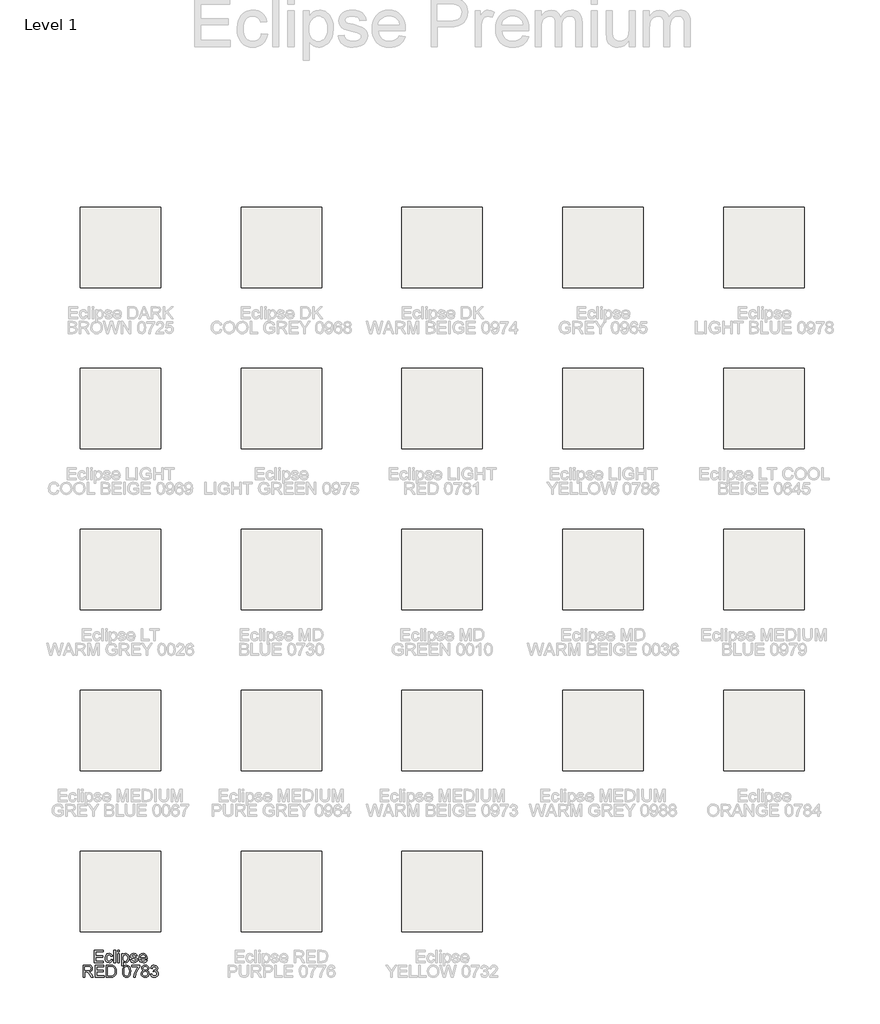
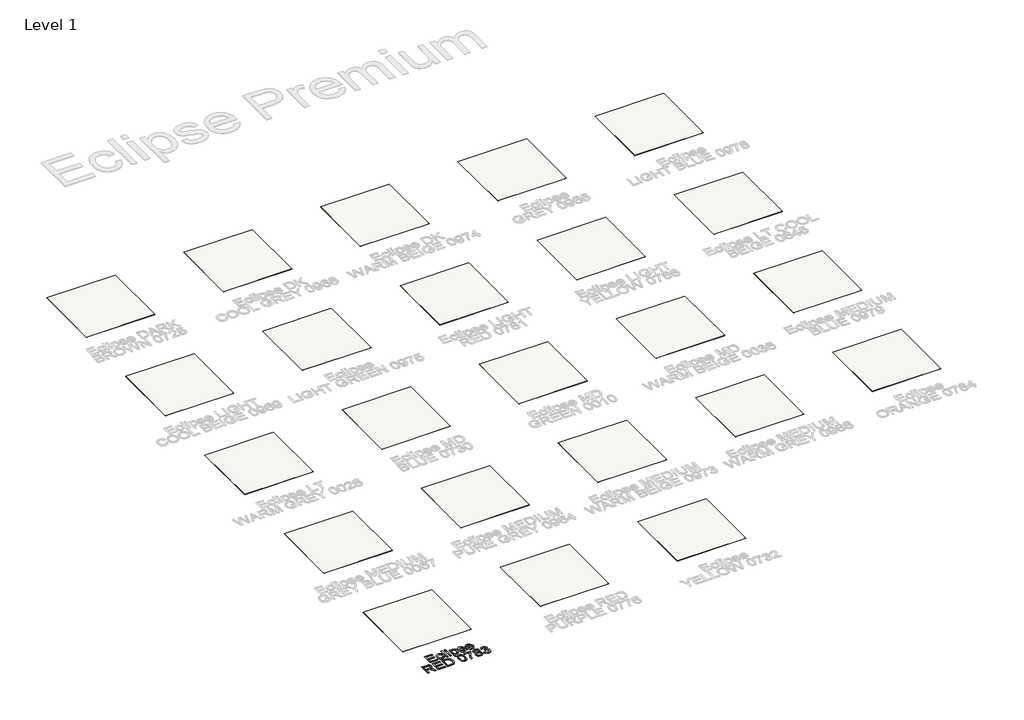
# One storey, part 1 of 13: 23 coverings, 1 proxy.
"""IFC4 building model written with IfcOpenShell, lengths in millimetres."""

from ifc_helpers import new_model, si_unit, frame, origin, origin_with_axes, place, context, project, spatial, polyline, outline, extrude, element, save

model = new_model("IFC4")

# Units and contexts
model_context = context("Model", 3, world=origin())
ifc_project = project(units=[si_unit("LENGTHUNIT", "METRE", prefix="MILLI")], contexts=[model_context])

# Site, building, storey
site = spatial("IfcSite", under=ifc_project)
building = spatial("IfcBuilding", under=site)
storey = spatial("IfcBuildingStorey", under=building, Name="Level 1", Elevation=0.0)

# Proxy
placement = place(None, origin())
element("IfcBuildingElementProxy", 1, Name="150mm Arial", ObjectType="150mm Arial", at=placement, inside=storey, context=model_context, shape_type="SweptSolid", body=[
    extrude(outline(polyline([(-2255.3225543, -7362.9455422), (-2255.3225543, -7212.261077), (-2147.0180949, -7212.261077), (-2147.0180949, -7231.0966352), (-2236.4869961, -7231.0966352), (-2236.4869961, -7275.8310858), (-2151.7269845, -7275.8310858), (-2151.7269845, -7294.6666439), (-2236.4869961, -7294.6666439), (-2236.4869961, -7344.1099841), (-2144.6636501, -7344.1099841), (-2144.6636501, -7362.9455422), (-2255.3225543, -7362.9455422)])), origin_with_axes(), (0.0, 0.0, 1.0), 5.0),
    extrude(outline(polyline([(-2048.1314146, -7322.9199812), (-2029.2958565, -7325.2744259), (-2034.5473719, -7342.0268523), (-2044.4158065, -7354.6865914), (-2057.972258, -7362.6466381), (-2074.2878245, -7365.299987), (-2094.3235976, -7361.5981744), (-2109.9907721, -7350.4927367), (-2120.1029284, -7332.4711175), (-2123.4736472, -7308.0207603), (-2122.0343089, -7291.2591369), (-2117.716294, -7276.7323967), (-2110.4506246, -7265.0015595), (-2100.1683228, -7256.6276456), (-2087.8672686, -7251.6060564), (-2074.5453419, -7249.9321933), (-2058.6298471, -7252.2314558), (-2045.9057285, -7259.1292432), (-2036.7776565, -7270.2576735), (-2031.6503012, -7285.2488648), (-2050.4858594, -7287.6033096), (-2059.2230568, -7273.4950351), (-2074.3981891, -7268.7677515), (-2086.5704846, -7271.0946051), (-2096.2319855, -7278.0751659), (-2102.5365632, -7290.0865131), (-2104.6380891, -7307.5057256), (-2102.5825484, -7325.1594628), (-2096.4159265, -7337.2121967), (-2086.9291695, -7344.1513708), (-2074.9132239, -7346.4644288), (-2065.1597525, -7345.020492), (-2057.1629176, -7340.6886815), (-2051.3457835, -7333.3586328), (-2048.1314146, -7322.9199812)])), origin_with_axes(), (0.0, 0.0, 1.0), 5.0),
    extrude(outline(polyline([(-2012.8147431, -7362.9455422), (-2012.8147431, -7212.261077), (-1993.9791849, -7212.261077), (-1993.9791849, -7362.9455422), (-2012.8147431, -7362.9455422)])), origin_with_axes(), (0.0, 0.0, 1.0), 5.0),
    extrude(outline(polyline([(-1965.7258477, -7231.0966352), (-1965.7258477, -7212.261077), (-1946.8902895, -7212.261077), (-1946.8902895, -7231.0966352), (-1965.7258477, -7231.0966352)])), origin_with_axes(), (0.0, 0.0, 1.0), 5.0),
    extrude(outline(polyline([(-1965.7258477, -7362.9455422), (-1965.7258477, -7252.2866381), (-1946.8902895, -7252.2866381), (-1946.8902895, -7362.9455422), (-1965.7258477, -7362.9455422)])), origin_with_axes(), (0.0, 0.0, 1.0), 5.0),
    extrude(outline(polyline([(-1918.6369523, -7405.3255481), (-1918.6369523, -7252.2866381), (-1899.8013942, -7252.2866381), (-1899.8013942, -7270.7543142), (-1886.7783715, -7255.1377235), (-1869.1936122, -7249.9321933), (-1856.4556981, -7251.7532092), (-1845.3180707, -7257.2162568), (-1836.2497795, -7265.9902424), (-1829.7198741, -7277.7440721), (-1824.4591615, -7306.7699616), (-1825.9444851, -7322.8785944), (-1830.4004558, -7337.2857731), (-1837.6845193, -7349.260332), (-1847.6541213, -7358.0711058), (-1859.2653968, -7363.4927667), (-1871.4744805, -7365.299987), (-1887.8636234, -7360.4623388), (-1899.8013942, -7348.2302624), (-1899.8013942, -7405.3255481), (-1918.6369523, -7405.3255481)]), holes=[polyline([(-1899.8013942, -7308.4990069), (-1897.7642476, -7325.3847905), (-1891.652808, -7337.1938026), (-1882.6351006, -7344.1467723), (-1871.8791507, -7346.4644288), (-1860.9484569, -7344.0639988), (-1851.7008233, -7336.8627088), (-1845.3962456, -7324.6214354), (-1843.2947197, -7307.1010554), (-1845.3456618, -7290.3072423), (-1851.4984882, -7278.3326833), (-1860.5024, -7271.1589844), (-1871.1065985, -7268.7677515), (-1881.7521838, -7271.3107358), (-1891.100985, -7278.9396886), (-1897.6262919, -7291.4154868), (-1899.8013942, -7308.4990069)])]), origin_with_axes(), (0.0, 0.0, 1.0), 5.0),
    extrude(outline(polyline([(-1810.3324929, -7329.9833155), (-1791.4969348, -7327.6288707), (-1788.5262877, -7335.6854864), (-1782.7781315, -7341.6083865), (-1762.8021392, -7346.4644288), (-1743.598699, -7342.0130567), (-1737.3447051, -7331.565208), (-1738.9174006, -7326.764348), (-1743.6354872, -7323.1039222), (-1763.0228684, -7317.732845), (-1791.3865702, -7308.517401), (-1803.7657993, -7297.7568527), (-1807.9780482, -7282.5633263), (-1804.5935338, -7268.5286282), (-1795.3596957, -7257.804868), (-1783.3851368, -7252.2314558), (-1767.1799349, -7249.9321933), (-1744.2608866, -7253.6294074), (-1729.6927596, -7263.6357976), (-1723.2180365, -7280.5399753), (-1742.0535946, -7282.8944201), (-1749.135323, -7272.5017537), (-1765.7084069, -7268.7677515), (-1783.7346247, -7272.3362068), (-1789.14249, -7280.6503399), (-1786.8984098, -7286.1317816), (-1779.8718637, -7290.2888482), (-1763.6482677, -7294.2987619), (-1736.0019358, -7303.164718), (-1723.1628542, -7313.2078965), (-1718.5091469, -7329.5786453), (-1723.9721946, -7347.604863), (-1739.7359381, -7360.683068), (-1763.0596566, -7365.299987), (-1782.0515646, -7363.0743009), (-1795.9115187, -7356.3972427), (-1805.1637509, -7345.3423888), (-1810.3324929, -7329.9833155)])), origin_with_axes(), (0.0, 0.0, 1.0), 5.0),
    extrude(outline(polyline([(-1619.8431958, -7329.9833155), (-1601.3755197, -7332.3377602), (-1608.0295853, -7346.2528967), (-1618.6475793, -7356.6547601), (-1632.9903786, -7363.1386803), (-1650.8188598, -7365.299987), (-1672.9193707, -7361.5705833), (-1689.9247159, -7350.3823721), (-1700.7680377, -7332.4619204), (-1704.3824783, -7308.5357951), (-1700.7312495, -7283.804928), (-1689.7775631, -7265.3096607), (-1673.0021441, -7253.7765602), (-1651.8857176, -7249.9321933), (-1631.4268802, -7253.7673631), (-1615.079124, -7265.2728725), (-1604.3599624, -7283.7313516), (-1600.7869085, -7308.4254305), (-1600.8972731, -7313.5022021), (-1685.5469202, -7313.5022021), (-1682.286566, -7327.6012795), (-1674.7127954, -7337.9663548), (-1663.7821016, -7344.3399103), (-1650.4509778, -7346.4644288), (-1631.9833017, -7342.5280915), (-1619.8431958, -7329.9833155)]), holes=[polyline([(-1685.5469202, -7294.6666439), (-1619.6224666, -7294.6666439), (-1622.1700494, -7284.715436), (-1627.1640475, -7277.5969193), (-1638.1453251, -7270.9750434), (-1651.959294, -7268.7677515), (-1664.6558214, -7270.5289865), (-1675.1542538, -7275.8126917), (-1682.4521129, -7284.0486498), (-1685.5469202, -7294.6666439)])]), origin_with_axes(), (0.0, 0.0, 1.0), 5.0),
    extrude(outline(polyline([(-2397.7664628, -7545.907769), (-2397.7664628, -7395.2233038), (-2332.8352907, -7395.2233038), (-2302.6873612, -7399.2883998), (-2293.4075378, -7404.9169943), (-2286.2062478, -7413.6725858), (-2281.5847302, -7424.5297032), (-2280.0442244, -7436.4628754), (-2282.5964057, -7451.3069139), (-2290.2529497, -7463.6125667), (-2303.2437827, -7472.6348726), (-2321.7988308, -7477.6288707), (-2311.0934648, -7485.6854864), (-2295.826362, -7505.0728675), (-2270.7000217, -7545.907769), (-2292.5890004, -7545.907769), (-2312.1971108, -7514.6745876), (-2326.3605676, -7493.9996195), (-2336.3117755, -7484.2323525), (-2345.2697021, -7480.6455031), (-2356.1957974, -7479.9833155), (-2378.9309047, -7479.9833155), (-2378.9309047, -7545.907769), (-2397.7664628, -7545.907769)]), holes=[polyline([(-2378.9309047, -7461.1477573), (-2336.771628, -7461.1477573), (-2315.2689254, -7458.4806128), (-2303.0552432, -7449.9457506), (-2298.8797825, -7437.1618512), (-2300.8709438, -7427.9739984), (-2306.8444277, -7420.5703732), (-2317.122131, -7415.6867398), (-2332.0259503, -7414.0588619), (-2378.9309047, -7414.0588619), (-2378.9309047, -7461.1477573)])]), origin_with_axes(), (0.0, 0.0, 1.0), 5.0),
    extrude(outline(polyline([(-2247.0819976, -7545.907769), (-2247.0819976, -7395.2233038), (-2138.7775382, -7395.2233038), (-2138.7775382, -7414.0588619), (-2228.2464395, -7414.0588619), (-2228.2464395, -7458.7933125), (-2143.4864278, -7458.7933125), (-2143.4864278, -7477.6288707), (-2228.2464395, -7477.6288707), (-2228.2464395, -7527.0722108), (-2136.4230935, -7527.0722108), (-2136.4230935, -7545.907769), (-2247.0819976, -7545.907769)])), origin_with_axes(), (0.0, 0.0, 1.0), 5.0),
    extrude(outline(polyline([(-2108.1697562, -7545.907769), (-2108.1697562, -7395.2233038), (-2056.1880303, -7395.2233038), (-2029.2958565, -7397.3938075), (-2007.1493604, -7408.17275), (-1996.7291028, -7419.6506683), (-1989.3070836, -7433.9244897), (-1984.8649085, -7450.7183027), (-1983.3841835, -7469.756196), (-1987.3940972, -7500.1616429), (-1997.6947931, -7522.1058039), (-2011.4535797, -7535.77262), (-2029.4614034, -7543.332595), (-2053.6864327, -7545.907769), (-2108.1697562, -7545.907769)]), holes=[polyline([(-2089.3341981, -7527.0722108), (-2056.0040893, -7527.0722108), (-2031.7606658, -7524.3498841), (-2017.78115, -7516.6611504), (-2006.3216259, -7497.9543509), (-2002.2197416, -7469.4618904), (-2004.229297, -7448.9340751), (-2010.2579632, -7433.7773369), (-2019.165306, -7423.3662764), (-2029.8108913, -7417.0754943), (-2056.5191241, -7414.0588619), (-2089.3341981, -7414.0588619), (-2089.3341981, -7527.0722108)])]), origin_with_axes(), (0.0, 0.0, 1.0), 5.0),
    extrude(outline(polyline([(-1905.6875061, -7471.779547), (-1904.3033501, -7447.6602837), (-1900.1508821, -7428.4246538), (-1893.2714887, -7413.7783519), (-1883.7065569, -7403.4270723), (-1871.3871086, -7397.2742459), (-1856.2441659, -7395.2233038), (-1834.2448226, -7400.0793461), (-1819.0512962, -7414.077256), (-1810.2221283, -7436.3709049), (-1806.8008258, -7471.779547), (-1808.1711862, -7495.7608545), (-1812.2822675, -7514.9504991), (-1819.1202741, -7529.6105966), (-1828.6714104, -7540.003263), (-1841.0184499, -7546.1974761), (-1856.2441659, -7548.2622138), (-1875.8154881, -7544.6753643), (-1890.6779207, -7533.914816), (-1901.9351097, -7508.4297907), (-1905.6875061, -7471.779547)]), holes=[polyline([(-1886.8519479, -7471.7427588), (-1884.644656, -7501.371055), (-1878.02278, -7518.5189545), (-1868.1635426, -7526.6997303), (-1856.2441659, -7529.4266556), (-1844.3247893, -7526.6905333), (-1834.4655518, -7518.4821663), (-1827.8436759, -7501.3250697), (-1825.6363839, -7471.7427588), (-1827.7700995, -7442.7812487), (-1834.1712462, -7425.499992), (-1844.0120896, -7416.9191444), (-1856.4648951, -7414.0588619), (-1868.2555131, -7416.5788536), (-1877.7284744, -7424.1388286), (-1884.5710796, -7442.4961402), (-1886.8519479, -7471.7427588)])]), origin_with_axes(), (0.0, 0.0, 1.0), 5.0),
    extrude(outline(polyline([(-1790.3197124, -7416.4133067), (-1790.3197124, -7397.5777485), (-1691.4330321, -7397.5777485), (-1691.4330321, -7412.8080631), (-1719.4840342, -7453.3302649), (-1731.7942855, -7478.7922975), (-1740.9499486, -7504.9625029), (-1747.9397065, -7545.907769), (-1766.7752647, -7545.907769), (-1759.2888661, -7503.4173986), (-1750.5746613, -7478.9578444), (-1738.7426567, -7455.3904041), (-1710.2685902, -7416.4133067), (-1790.3197124, -7416.4133067)])), origin_with_axes(), (0.0, 0.0, 1.0), 5.0),
    extrude(outline(polyline([(-1647.5079219, -7462.9135909), (-1664.6696169, -7451.2149434), (-1670.2430292, -7433.0047847), (-1667.2080027, -7418.2803078), (-1658.1029233, -7406.1126108), (-1643.9486636, -7397.9456305), (-1625.766096, -7395.2233038), (-1607.4731637, -7398.0100099), (-1593.134963, -7406.3701282), (-1583.8643367, -7418.7309633), (-1580.7741279, -7433.5198195), (-1586.2739638, -7451.2701257), (-1602.9574123, -7462.9135909), (-1591.3645309, -7468.8870748), (-1582.9262376, -7477.684053), (-1577.7804882, -7488.8814612), (-1576.0652384, -7502.0562352), (-1579.4681469, -7520.0640588), (-1589.6768722, -7534.9448855), (-1605.4406157, -7544.9328817), (-1625.5085786, -7548.2622138), (-1645.5765414, -7544.9190861), (-1661.3402849, -7534.8897032), (-1671.5490103, -7519.8663223), (-1674.9519187, -7501.5412004), (-1673.167691, -7487.8559902), (-1667.815008, -7476.5988011), (-1659.1697811, -7468.1559093), (-1647.5079219, -7462.9135909)]), holes=[polyline([(-1651.407471, -7433.5566077), (-1649.7382065, -7441.7787703), (-1644.7304128, -7448.3454639), (-1636.5312428, -7452.6496832), (-1625.2878494, -7454.084423), (-1614.3065718, -7452.6588803), (-1606.231562, -7448.3822521), (-1601.2651551, -7442.0362877), (-1599.6096861, -7434.4027363), (-1601.3203374, -7426.4794778), (-1606.4522912, -7419.9265797), (-1614.6376656, -7415.5257914), (-1625.5085786, -7414.0588619), (-1636.4484694, -7415.4936017), (-1644.6200482, -7419.7978211), (-1649.7106153, -7426.1069973), (-1651.407471, -7433.5566077)]), polyline([(-1656.1163606, -7500.8790128), (-1652.9709695, -7515.0608637), (-1641.8425391, -7525.6742593), (-1625.3614258, -7529.4266556), (-1612.5407382, -7527.4538884), (-1602.9206241, -7521.5355868), (-1596.9057534, -7512.5730617), (-1594.9007966, -7501.467624), (-1596.9701328, -7490.1736467), (-1603.1781414, -7481.013385), (-1613.0189848, -7474.9433321), (-1625.9868251, -7472.9199812), (-1638.6281702, -7474.915741), (-1648.1517154, -7480.9030204), (-1654.1251993, -7489.8885382), (-1656.1163606, -7500.8790128)])]), origin_with_axes(), (0.0, 0.0, 1.0), 5.0),
    extrude(outline(polyline([(-1559.584125, -7505.8822079), (-1540.7485669, -7503.5277632), (-1536.5317195, -7515.3643663), (-1530.3559005, -7523.3566027), (-1521.9176072, -7527.9091424), (-1510.9133371, -7529.4266556), (-1498.000679, -7527.3389253), (-1488.031077, -7521.0757343), (-1481.6575214, -7511.7315316), (-1479.5330029, -7500.4007662), (-1481.6391273, -7489.6448164), (-1487.9575006, -7480.9214145), (-1497.5224324, -7475.1410687), (-1509.3682327, -7473.2142868), (-1522.5751963, -7475.2744259), (-1520.4782689, -7456.4388678), (-1517.4616366, -7456.659597), (-1496.0876927, -7451.2517316), (-1488.969176, -7444.3907324), (-1486.5963372, -7434.6234655), (-1488.3161855, -7426.4886748), (-1493.4757305, -7419.8897915), (-1501.3484052, -7415.5165943), (-1511.2076427, -7414.0588619), (-1521.0852742, -7415.5303899), (-1529.160284, -7419.9449738), (-1535.055593, -7427.3026138), (-1538.3941221, -7437.6033096), (-1557.2296802, -7435.2488648), (-1551.6838592, -7418.3354901), (-1541.8154247, -7405.7079406), (-1528.3141554, -7397.844463), (-1511.8698302, -7395.2233038), (-1489.153117, -7400.3920458), (-1473.2606149, -7414.5187144), (-1467.760779, -7433.5198195), (-1472.9847034, -7450.8838496), (-1488.4357472, -7463.3550493), (-1476.6451292, -7468.1191211), (-1467.9079318, -7476.2309191), (-1462.5000665, -7487.2489849), (-1460.6974447, -7500.73186), (-1464.3026883, -7519.0891715), (-1475.1184189, -7534.4298507), (-1491.4431825, -7544.804123), (-1511.5755246, -7548.2622138), (-1529.7856834, -7545.3099608), (-1544.6113278, -7536.4532017), (-1554.9212207, -7522.9059472), (-1559.584125, -7505.8822079)])), origin_with_axes(), (0.0, 0.0, 1.0), 5.0),
])

# Coverings
element("IfcCovering", 2, ObjectType="TARKETT - Eclipse Premium - Eclipse DK COOL GREY 0968", at=placement, inside=storey, context=model_context, shape_type="SweptSolid", body=[
    extrude(outline(polyline([(566.0591567, 2020.5816168), (566.0591567, 1020.5816168), (-433.9408433, 1020.5816168), (-433.9408433, 2020.5816168), (566.0591567, 2020.5816168)])), frame((0.0, 0.0, -2.0), z_axis=(0.0, 0.0, 1.0), x_axis=(1.0, 0.0, 0.0)), (0.0, 0.0, 1.0), 2.0),
])
element("IfcCovering", 3, ObjectType="TARKETT - Eclipse Premium - Eclipse DK WARM BEIGE 0974", at=placement, inside=storey, context=model_context, shape_type="SweptSolid", body=[
    extrude(outline(polyline([(2566.0591567, 2020.5816168), (2566.0591567, 1020.5816168), (1566.0591567, 1020.5816168), (1566.0591567, 2020.5816168), (2566.0591567, 2020.5816168)])), frame((0.0, 0.0, -2.0), z_axis=(0.0, 0.0, 1.0), x_axis=(1.0, 0.0, 0.0)), (0.0, 0.0, 1.0), 2.0),
])
element("IfcCovering", 4, ObjectType="TARKETT - Eclipse Premium - Eclipse GREY 0965", at=placement, inside=storey, context=model_context, shape_type="SweptSolid", body=[
    extrude(outline(polyline([(4566.0591567, 2020.5816168), (4566.0591567, 1020.5816168), (3566.0591567, 1020.5816168), (3566.0591567, 2020.5816168), (4566.0591567, 2020.5816168)])), frame((0.0, 0.0, -2.0), z_axis=(0.0, 0.0, 1.0), x_axis=(1.0, 0.0, 0.0)), (0.0, 0.0, 1.0), 2.0),
])
element("IfcCovering", 5, ObjectType="TARKETT - Eclipse Premium - Eclipse LIGHT GREEN 0975", at=placement, inside=storey, context=model_context, shape_type="SweptSolid", body=[
    extrude(outline(polyline([(566.0591567, 20.5816168), (566.0591567, -979.4183832), (-433.9408433, -979.4183832), (-433.9408433, 20.5816168), (566.0591567, 20.5816168)])), frame((0.0, 0.0, -2.0), z_axis=(0.0, 0.0, 1.0), x_axis=(1.0, 0.0, 0.0)), (0.0, 0.0, 1.0), 2.0),
])
element("IfcCovering", 6, ObjectType="TARKETT - Eclipse Premium - Eclipse LT COOL BEIGE 0645", at=placement, inside=storey, context=model_context, shape_type="SweptSolid", body=[
    extrude(outline(polyline([(6566.0591567, 20.5816168), (6566.0591567, -979.4183832), (5566.0591567, -979.4183832), (5566.0591567, 20.5816168), (6566.0591567, 20.5816168)])), frame((0.0, 0.0, -2.0), z_axis=(0.0, 0.0, 1.0), x_axis=(1.0, 0.0, 0.0)), (0.0, 0.0, 1.0), 2.0),
])
element("IfcCovering", 7, ObjectType="TARKETT - Eclipse Premium - Eclipse LT WARM GREY 0026", at=placement, inside=storey, context=model_context, shape_type="SweptSolid", body=[
    extrude(outline(polyline([(-1433.9408433, -1979.4183832), (-1433.9408433, -2979.4183832), (-2433.9408433, -2979.4183832), (-2433.9408433, -1979.4183832), (-1433.9408433, -1979.4183832)])), frame((0.0, 0.0, -2.0), z_axis=(0.0, 0.0, 1.0), x_axis=(1.0, 0.0, 0.0)), (0.0, 0.0, 1.0), 2.0),
])
element("IfcCovering", 8, ObjectType="TARKETT - Eclipse Premium - Eclipse MD BLUE 0730", at=placement, inside=storey, context=model_context, shape_type="SweptSolid", body=[
    extrude(outline(polyline([(566.0591567, -1979.4183832), (566.0591567, -2979.4183832), (-433.9408433, -2979.4183832), (-433.9408433, -1979.4183832), (566.0591567, -1979.4183832)])), frame((0.0, 0.0, -2.0), z_axis=(0.0, 0.0, 1.0), x_axis=(1.0, 0.0, 0.0)), (0.0, 0.0, 1.0), 2.0),
])
element("IfcCovering", 9, ObjectType="TARKETT - Eclipse Premium - Eclipse MD WARM BEIGE 0036", at=placement, inside=storey, context=model_context, shape_type="SweptSolid", body=[
    extrude(outline(polyline([(4566.0591567, -1979.4183832), (4566.0591567, -2979.4183832), (3566.0591567, -2979.4183832), (3566.0591567, -1979.4183832), (4566.0591567, -1979.4183832)])), frame((0.0, 0.0, -2.0), z_axis=(0.0, 0.0, 1.0), x_axis=(1.0, 0.0, 0.0)), (0.0, 0.0, 1.0), 2.0),
])
element("IfcCovering", 10, ObjectType="TARKETT - Eclipse Premium - Eclipse MEDIUM BLUE 0979", at=placement, inside=storey, context=model_context, shape_type="SweptSolid", body=[
    extrude(outline(polyline([(6566.0591567, -1979.4183832), (6566.0591567, -2979.4183832), (5566.0591567, -2979.4183832), (5566.0591567, -1979.4183832), (6566.0591567, -1979.4183832)])), frame((0.0, 0.0, -2.0), z_axis=(0.0, 0.0, 1.0), x_axis=(1.0, 0.0, 0.0)), (0.0, 0.0, 1.0), 2.0),
])
element("IfcCovering", 11, ObjectType="TARKETT - Eclipse Premium - Eclipse MEDIUM PURE GREY 0964", at=placement, inside=storey, context=model_context, shape_type="SweptSolid", body=[
    extrude(outline(polyline([(566.0591567, -3979.4183832), (566.0591567, -4979.4183832), (-433.9408433, -4979.4183832), (-433.9408433, -3979.4183832), (566.0591567, -3979.4183832)])), frame((0.0, 0.0, -2.0), z_axis=(0.0, 0.0, 1.0), x_axis=(1.0, 0.0, 0.0)), (0.0, 0.0, 1.0), 2.0),
])
element("IfcCovering", 12, ObjectType="TARKETT - Eclipse Premium - Eclipse MEDIUM WARM BEIGE 0973", at=placement, inside=storey, context=model_context, shape_type="SweptSolid", body=[
    extrude(outline(polyline([(2566.0591567, -3979.4183832), (2566.0591567, -4979.4183832), (1566.0591567, -4979.4183832), (1566.0591567, -3979.4183832), (2566.0591567, -3979.4183832)])), frame((0.0, 0.0, -2.0), z_axis=(0.0, 0.0, 1.0), x_axis=(1.0, 0.0, 0.0)), (0.0, 0.0, 1.0), 2.0),
])
element("IfcCovering", 13, ObjectType="TARKETT - Eclipse Premium - Eclipse MEDIUM WARM GREY 0988", at=placement, inside=storey, context=model_context, shape_type="SweptSolid", body=[
    extrude(outline(polyline([(4566.0591567, -3979.4183832), (4566.0591567, -4979.4183832), (3566.0591567, -4979.4183832), (3566.0591567, -3979.4183832), (4566.0591567, -3979.4183832)])), frame((0.0, 0.0, -2.0), z_axis=(0.0, 0.0, 1.0), x_axis=(1.0, 0.0, 0.0)), (0.0, 0.0, 1.0), 2.0),
])
element("IfcCovering", 14, ObjectType="TARKETT - Eclipse Premium - Eclipse YELLOW 0732", at=placement, inside=storey, context=model_context, shape_type="SweptSolid", body=[
    extrude(outline(polyline([(2566.0591567, -5979.4183832), (2566.0591567, -6979.4183832), (1566.0591567, -6979.4183832), (1566.0591567, -5979.4183832), (2566.0591567, -5979.4183832)])), frame((0.0, 0.0, -2.0), z_axis=(0.0, 0.0, 1.0), x_axis=(1.0, 0.0, 0.0)), (0.0, 0.0, 1.0), 2.0),
])
element("IfcCovering", 15, ObjectType="TARKETT - Eclipse Premium - Eclipse DARK BROWN 0725", at=placement, inside=storey, context=model_context, shape_type="SweptSolid", body=[
    extrude(outline(polyline([(-1433.9408433, 2020.5816168), (-1433.9408433, 1020.5816168), (-2433.9408433, 1020.5816168), (-2433.9408433, 2020.5816168), (-1433.9408433, 2020.5816168)])), frame((0.0, 0.0, -2.0), z_axis=(0.0, 0.0, 1.0), x_axis=(1.0, 0.0, 0.0)), (0.0, 0.0, 1.0), 2.0),
])
element("IfcCovering", 16, ObjectType="TARKETT - Eclipse Premium - Eclipse LIGHT BLUE 0978", at=placement, inside=storey, context=model_context, shape_type="SweptSolid", body=[
    extrude(outline(polyline([(6566.0591567, 2020.5816168), (6566.0591567, 1020.5816168), (5566.0591567, 1020.5816168), (5566.0591567, 2020.5816168), (6566.0591567, 2020.5816168)])), frame((0.0, 0.0, -2.0), z_axis=(0.0, 0.0, 1.0), x_axis=(1.0, 0.0, 0.0)), (0.0, 0.0, 1.0), 2.0),
])
element("IfcCovering", 17, ObjectType="TARKETT - Eclipse Premium - Eclipse LIGHT COOL BEIGE 0969", at=placement, inside=storey, context=model_context, shape_type="SweptSolid", body=[
    extrude(outline(polyline([(-1433.9408433, 20.5816168), (-1433.9408433, -979.4183832), (-2433.9408433, -979.4183832), (-2433.9408433, 20.5816168), (-1433.9408433, 20.5816168)])), frame((0.0, 0.0, -2.0), z_axis=(0.0, 0.0, 1.0), x_axis=(1.0, 0.0, 0.0)), (0.0, 0.0, 1.0), 2.0),
])
element("IfcCovering", 18, ObjectType="TARKETT - Eclipse Premium - Eclipse LIGHT RED 0781", at=placement, inside=storey, context=model_context, shape_type="SweptSolid", body=[
    extrude(outline(polyline([(2566.0591567, 20.5816168), (2566.0591567, -979.4183832), (1566.0591567, -979.4183832), (1566.0591567, 20.5816168), (2566.0591567, 20.5816168)])), frame((0.0, 0.0, -2.0), z_axis=(0.0, 0.0, 1.0), x_axis=(1.0, 0.0, 0.0)), (0.0, 0.0, 1.0), 2.0),
])
element("IfcCovering", 19, ObjectType="TARKETT - Eclipse Premium - Eclipse LIGHT YELLOW 0786", at=placement, inside=storey, context=model_context, shape_type="SweptSolid", body=[
    extrude(outline(polyline([(4566.0591567, 20.5816168), (4566.0591567, -979.4183832), (3566.0591567, -979.4183832), (3566.0591567, 20.5816168), (4566.0591567, 20.5816168)])), frame((0.0, 0.0, -2.0), z_axis=(0.0, 0.0, 1.0), x_axis=(1.0, 0.0, 0.0)), (0.0, 0.0, 1.0), 2.0),
])
element("IfcCovering", 20, ObjectType="TARKETT - Eclipse Premium - Eclipse MD GREEN 0010", at=placement, inside=storey, context=model_context, shape_type="SweptSolid", body=[
    extrude(outline(polyline([(2566.0591567, -1979.4183832), (2566.0591567, -2979.4183832), (1566.0591567, -2979.4183832), (1566.0591567, -1979.4183832), (2566.0591567, -1979.4183832)])), frame((0.0, 0.0, -2.0), z_axis=(0.0, 0.0, 1.0), x_axis=(1.0, 0.0, 0.0)), (0.0, 0.0, 1.0), 2.0),
])
element("IfcCovering", 21, ObjectType="TARKETT - Eclipse Premium - Eclipse MEDIUM GREY BLUE 0067", at=placement, inside=storey, context=model_context, shape_type="SweptSolid", body=[
    extrude(outline(polyline([(-1433.9408433, -3979.4183832), (-1433.9408433, -4979.4183832), (-2433.9408433, -4979.4183832), (-2433.9408433, -3979.4183832), (-1433.9408433, -3979.4183832)])), frame((0.0, 0.0, -2.0), z_axis=(0.0, 0.0, 1.0), x_axis=(1.0, 0.0, 0.0)), (0.0, 0.0, 1.0), 2.0),
])
element("IfcCovering", 22, ObjectType="TARKETT - Eclipse Premium - Eclipse ORANGE 0784", at=placement, inside=storey, context=model_context, shape_type="SweptSolid", body=[
    extrude(outline(polyline([(6566.0591567, -3979.4183832), (6566.0591567, -4979.4183832), (5566.0591567, -4979.4183832), (5566.0591567, -3979.4183832), (6566.0591567, -3979.4183832)])), frame((0.0, 0.0, -2.0), z_axis=(0.0, 0.0, 1.0), x_axis=(1.0, 0.0, 0.0)), (0.0, 0.0, 1.0), 2.0),
])
element("IfcCovering", 23, ObjectType="TARKETT - Eclipse Premium - Eclipse RED 0783", at=placement, inside=storey, context=model_context, shape_type="SweptSolid", body=[
    extrude(outline(polyline([(-1433.9408433, -5979.4183832), (-1433.9408433, -6979.4183832), (-2433.9408433, -6979.4183832), (-2433.9408433, -5979.4183832), (-1433.9408433, -5979.4183832)])), frame((0.0, 0.0, -2.0), z_axis=(0.0, 0.0, 1.0), x_axis=(1.0, 0.0, 0.0)), (0.0, 0.0, 1.0), 2.0),
])
element("IfcCovering", 24, ObjectType="TARKETT - Eclipse Premium - Eclipse RED PURPLE 0776", at=placement, inside=storey, context=model_context, shape_type="SweptSolid", body=[
    extrude(outline(polyline([(566.0591567, -5979.4183832), (566.0591567, -6979.4183832), (-433.9408433, -6979.4183832), (-433.9408433, -5979.4183832), (566.0591567, -5979.4183832)])), frame((0.0, 0.0, -2.0), z_axis=(0.0, 0.0, 1.0), x_axis=(1.0, 0.0, 0.0)), (0.0, 0.0, 1.0), 2.0),
])

save(model, "model.ifc")
